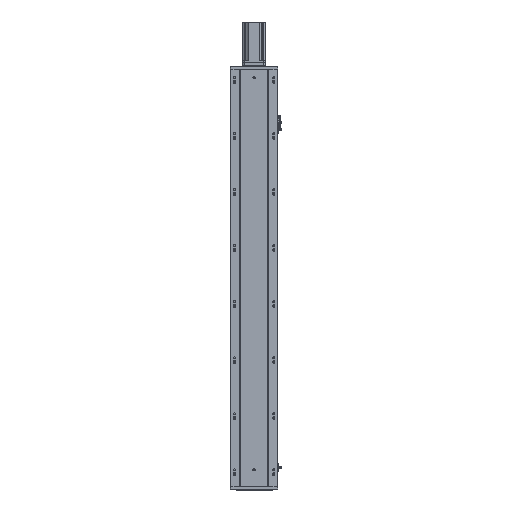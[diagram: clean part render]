
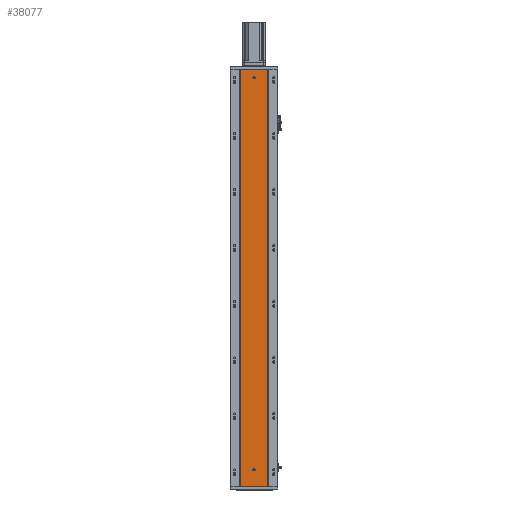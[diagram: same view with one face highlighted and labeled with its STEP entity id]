
A CAD part, front view. The second image highlights one B-rep face of the part: STEP entity #38077.
In plain terms, the highlighted planar face has unit normal (0, -1, 0).
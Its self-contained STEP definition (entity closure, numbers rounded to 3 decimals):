
#821 = AXIS2_PLACEMENT_3D ( 'NONE', #8469, #8470, #8433 ) ;
#1428 = AXIS2_PLACEMENT_3D ( 'NONE', #29952, #29953, #29967 ) ;
#1429 = AXIS2_PLACEMENT_3D ( 'NONE', #29982, #30005, #29990 ) ;
#2246 = CARTESIAN_POINT ( 'NONE',  ( 185.97, 79.476, 1490. ) ) ;
#5432 = EDGE_LOOP ( 'NONE', ( #45455, #45637, #45473, #45483 ) ) ;
#5433 = EDGE_LOOP ( 'NONE', ( #45435, #45607 ) ) ;
#5452 = EDGE_LOOP ( 'NONE', ( #45623, #45503 ) ) ;
#6581 = CARTESIAN_POINT ( 'NONE',  ( 136.47, 79.476, 56. ) ) ;
#6594 = CARTESIAN_POINT ( 'NONE',  ( 136.47, 79.476, 1456. ) ) ;
#6604 = CARTESIAN_POINT ( 'NONE',  ( 136.47, 79.476, 1464. ) ) ;
#6611 = CARTESIAN_POINT ( 'NONE',  ( 136.47, 79.476, 64. ) ) ;
#8433 = DIRECTION ( 'NONE',  ( 0., 0., 1. ) ) ;
#8462 = PLANE ( 'NONE',  #821 ) ;
#8469 = CARTESIAN_POINT ( 'NONE',  ( 0., 79.476, 1490. ) ) ;
#8470 = DIRECTION ( 'NONE',  ( 0., 1., 0. ) ) ;
#12936 = AXIS2_PLACEMENT_3D ( 'NONE', #43218, #43220, #43153 ) ;
#12951 = AXIS2_PLACEMENT_3D ( 'NONE', #43469, #43441, #43393 ) ;
#15727 = LINE ( 'NONE', #43187, #15759 ) ;
#15759 = VECTOR ( 'NONE', #43199, 1000. ) ;
#15788 = CIRCLE ( 'NONE', #12936, 4. ) ;
#15790 = LINE ( 'NONE', #43342, #15819 ) ;
#15809 = CIRCLE ( 'NONE', #12951, 4. ) ;
#15819 = VECTOR ( 'NONE', #43371, 1000. ) ;
#20425 = VERTEX_POINT ( 'NONE', #23764 ) ;
#20458 = VERTEX_POINT ( 'NONE', #23747 ) ;
#20464 = VERTEX_POINT ( 'NONE', #23753 ) ;
#23747 = CARTESIAN_POINT ( 'NONE',  ( 86.97, 79.476, 1490. ) ) ;
#23753 = CARTESIAN_POINT ( 'NONE',  ( 86.97, 79.476, 0. ) ) ;
#23764 = CARTESIAN_POINT ( 'NONE',  ( 185.97, 79.476, 0. ) ) ;
#24500 = FACE_BOUND ( 'NONE', #5452, .T. ) ;
#24524 = FACE_BOUND ( 'NONE', #5433, .T. ) ;
#24541 = FACE_OUTER_BOUND ( 'NONE', #5432, .T. ) ;
#29032 = CIRCLE ( 'NONE', #1428, 4. ) ;
#29071 = CIRCLE ( 'NONE', #1429, 4. ) ;
#29952 = CARTESIAN_POINT ( 'NONE',  ( 136.47, 79.476, 1460. ) ) ;
#29953 = DIRECTION ( 'NONE',  ( 0., -1., 0. ) ) ;
#29967 = DIRECTION ( 'NONE',  ( 0., 0., -1. ) ) ;
#29982 = CARTESIAN_POINT ( 'NONE',  ( 136.47, 79.476, 60. ) ) ;
#29990 = DIRECTION ( 'NONE',  ( 0., 0., -1. ) ) ;
#30005 = DIRECTION ( 'NONE',  ( 0., -1., 0. ) ) ;
#30720 = VERTEX_POINT ( 'NONE', #2246 ) ;
#38077 = ADVANCED_FACE ( 'NONE', ( #24524, #24500, #24541 ), #8462, .F. ) ;
#38981 = EDGE_CURVE ( 'NONE', #52202, #52228, #29032, .T. ) ;
#38989 = EDGE_CURVE ( 'NONE', #52232, #52230, #29071, .T. ) ;
#39366 = B_SPLINE_CURVE_WITH_KNOTS ( 'NONE', 3,
 ( #43311, #43244, #43313, #43275 ),
 .UNSPECIFIED., .F., .F.,
 ( 4, 4 ),
 ( 0., 1. ),
 .UNSPECIFIED. ) ;
#39372 = B_SPLINE_CURVE_WITH_KNOTS ( 'NONE', 3,
 ( #43288, #43298, #43302, #43315 ),
 .UNSPECIFIED., .F., .F.,
 ( 4, 4 ),
 ( 0., 1. ),
 .UNSPECIFIED. ) ;
#40496 = EDGE_CURVE ( 'NONE', #52230, #52232, #15788, .T. ) ;
#40508 = EDGE_CURVE ( 'NONE', #20464, #20425, #15727, .T. ) ;
#40525 = EDGE_CURVE ( 'NONE', #20458, #20464, #39366, .T. ) ;
#40537 = EDGE_CURVE ( 'NONE', #30720, #20425, #39372, .T. ) ;
#40573 = EDGE_CURVE ( 'NONE', #52228, #52202, #15809, .T. ) ;
#40575 = EDGE_CURVE ( 'NONE', #20458, #30720, #15790, .T. ) ;
#43153 = DIRECTION ( 'NONE',  ( 0., 0., -1. ) ) ;
#43187 = CARTESIAN_POINT ( 'NONE',  ( 0., 79.476, 0. ) ) ;
#43199 = DIRECTION ( 'NONE',  ( 1., 0., 0. ) ) ;
#43218 = CARTESIAN_POINT ( 'NONE',  ( 136.47, 79.476, 60. ) ) ;
#43220 = DIRECTION ( 'NONE',  ( 0., -1., 0. ) ) ;
#43244 = CARTESIAN_POINT ( 'NONE',  ( 86.97, 79.476, 993.333 ) ) ;
#43275 = CARTESIAN_POINT ( 'NONE',  ( 86.97, 79.476, 0. ) ) ;
#43288 = CARTESIAN_POINT ( 'NONE',  ( 185.97, 79.476, 1490. ) ) ;
#43298 = CARTESIAN_POINT ( 'NONE',  ( 185.97, 79.476, 993.333 ) ) ;
#43302 = CARTESIAN_POINT ( 'NONE',  ( 185.97, 79.476, 496.667 ) ) ;
#43311 = CARTESIAN_POINT ( 'NONE',  ( 86.97, 79.476, 1490. ) ) ;
#43313 = CARTESIAN_POINT ( 'NONE',  ( 86.97, 79.476, 496.667 ) ) ;
#43315 = CARTESIAN_POINT ( 'NONE',  ( 185.97, 79.476, 0. ) ) ;
#43342 = CARTESIAN_POINT ( 'NONE',  ( 0., 79.476, 1490. ) ) ;
#43371 = DIRECTION ( 'NONE',  ( 1., 0., 0. ) ) ;
#43393 = DIRECTION ( 'NONE',  ( 0., 0., -1. ) ) ;
#43441 = DIRECTION ( 'NONE',  ( 0., -1., 0. ) ) ;
#43469 = CARTESIAN_POINT ( 'NONE',  ( 136.47, 79.476, 1460. ) ) ;
#45435 = ORIENTED_EDGE ( 'NONE', *, *, #40573, .F. ) ;
#45455 = ORIENTED_EDGE ( 'NONE', *, *, #40508, .T. ) ;
#45473 = ORIENTED_EDGE ( 'NONE', *, *, #40575, .F. ) ;
#45483 = ORIENTED_EDGE ( 'NONE', *, *, #40525, .T. ) ;
#45503 = ORIENTED_EDGE ( 'NONE', *, *, #38989, .F. ) ;
#45607 = ORIENTED_EDGE ( 'NONE', *, *, #38981, .F. ) ;
#45623 = ORIENTED_EDGE ( 'NONE', *, *, #40496, .F. ) ;
#45637 = ORIENTED_EDGE ( 'NONE', *, *, #40537, .F. ) ;
#52202 = VERTEX_POINT ( 'NONE', #6604 ) ;
#52228 = VERTEX_POINT ( 'NONE', #6594 ) ;
#52230 = VERTEX_POINT ( 'NONE', #6581 ) ;
#52232 = VERTEX_POINT ( 'NONE', #6611 ) ;
